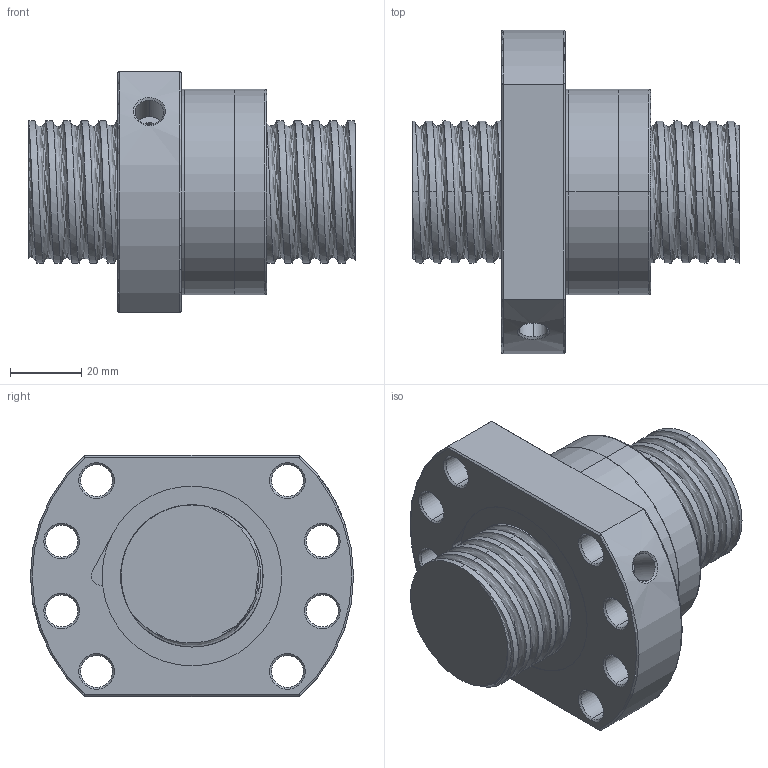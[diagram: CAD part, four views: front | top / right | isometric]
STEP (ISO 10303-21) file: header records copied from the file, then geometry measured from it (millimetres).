
FILE_DESCRIPTION (( 'STEP AP214' ), '1' );
FILE_NAME ('FSDC04005T4-B-C.STEP', '2010-06-25T11:56:07', ( 'XPAUTO' ), ( 'XPAUTO' ), 'SwSTEP 2.0', 'SolidWorks 2007', '' );
FILE_SCHEMA (( 'AUTOMOTIVE_DESIGN' ));
Length unit declared in the file: millimetre
Products named in the file (3): FSDC04005T4-B-C.sldasm-Part-2_預設; FSDC04005T4-B-C.sldasm-Part-1_預設; FSDC04005T4-B-C
Assembly tree (2 placements, depth 2):
  FSDC04005T4-B-C
    FSDC04005T4-B-C.sldasm-Part-1_預設
    FSDC04005T4-B-C.sldasm-Part-2_預設
Bounding box: 92 x 91 x 68 mm (x, y, z)
Volume: 208635 mm3; surface area: 43668.3 mm2
Topology: 2 solids, 2 shells, 145 faces, 361 edges, 225 vertices
Faces by surface type: cylinder 80, cone 32, plane 22, torus 6, bspline 5
Entity records: 27202 total; most frequent: CARTESIAN_POINT 23761, ORIENTED_EDGE 722, DIRECTION 667, EDGE_CURVE 361, AXIS2_PLACEMENT_3D 269, VERTEX_POINT 225, EDGE_LOOP 170, FACE_OUTER_BOUND 145
